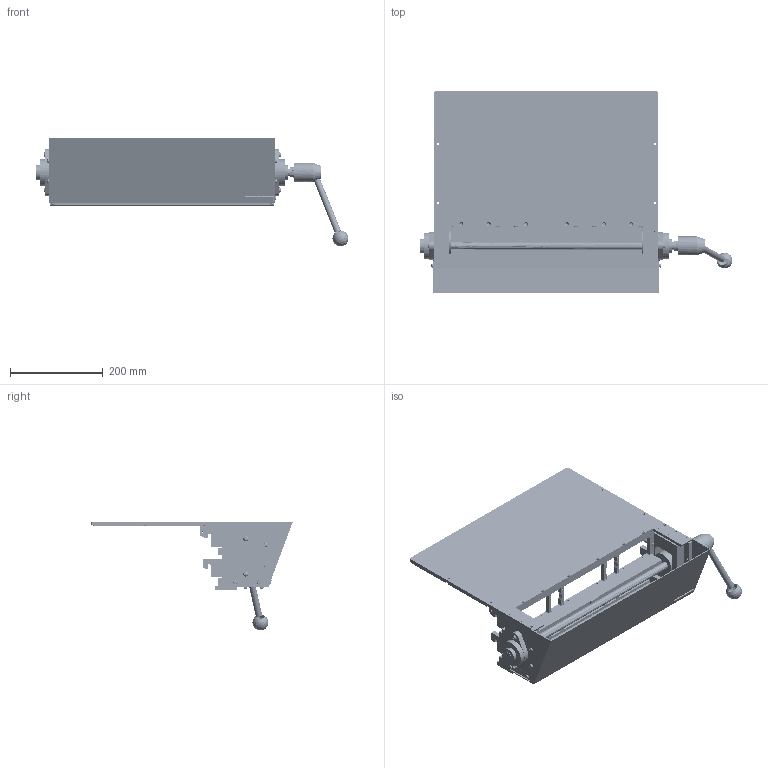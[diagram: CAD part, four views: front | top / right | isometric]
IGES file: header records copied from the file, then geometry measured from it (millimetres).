
Start section: SolidWorks IGES file using analytic representation for surfaces
Global section: file name: \\Rifs1\vg\complete\207 (solidworks)\207.IGS; native system: SolidWorks 2016; preprocessor: SolidWorks 2016; author: kgolden; date: 180919.070729; units: millimetre
Bounding box: 675.33 x 435.46 x 234.64 mm (x, y, z)
Surface area: 1115775.9 mm2 (no closed solid volume)
Topology: 0 solids, 0 shells, 3145 faces, 46479 edges, 46394 vertices
Faces by surface type: bspline 1797, revolution 1348
